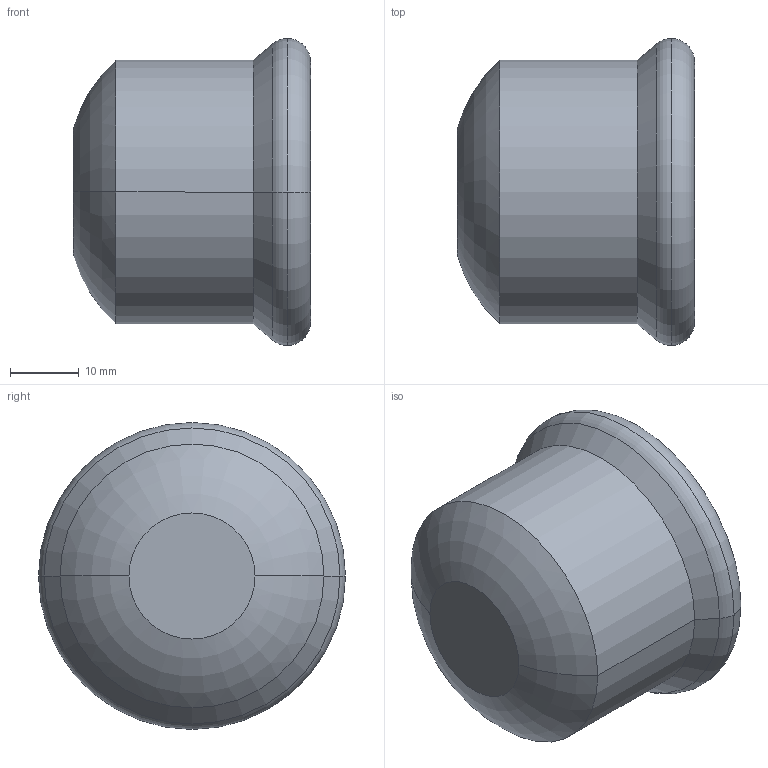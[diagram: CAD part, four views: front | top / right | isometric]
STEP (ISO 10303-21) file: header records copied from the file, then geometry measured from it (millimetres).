
FILE_DESCRIPTION(('CoCreate Modeling STEP Export'),'2;1');
FILE_NAME('C1429 35.stp','2014-11-12T16:09:59',(''),(''),'CoCreate Modeling STEP processor for AP214 (Solid Model)','CoCreate Modeling 17.00A 17-Jun-2010 (C) Parametric Technology GmbH','');
FILE_SCHEMA(('AUTOMOTIVE_DESIGN { 1 0 10303 214 1 1 1 1 }'));
Length unit declared in the file: millimetre
Products named in the file (2): C1429_35
Assembly tree (1 placements, depth 2):
  C1429_35
    C1429_35
Bounding box: 34.4 x 44.55 x 44.55 mm (x, y, z)
Volume: 11582.8 mm3; surface area: 9649.4 mm2
Topology: 1 solids, 1 shells, 21 faces, 40 edges, 24 vertices
Faces by surface type: cylinder 8, torus 6, plane 5, cone 2
Entity records: 480 total; most frequent: ORIENTED_EDGE 80, DIRECTION 74, CARTESIAN_POINT 66, EDGE_CURVE 40, AXIS2_PLACEMENT_3D 32, VERTEX_POINT 24, EDGE_LOOP 24, FACE_OUTER_BOUND 21
